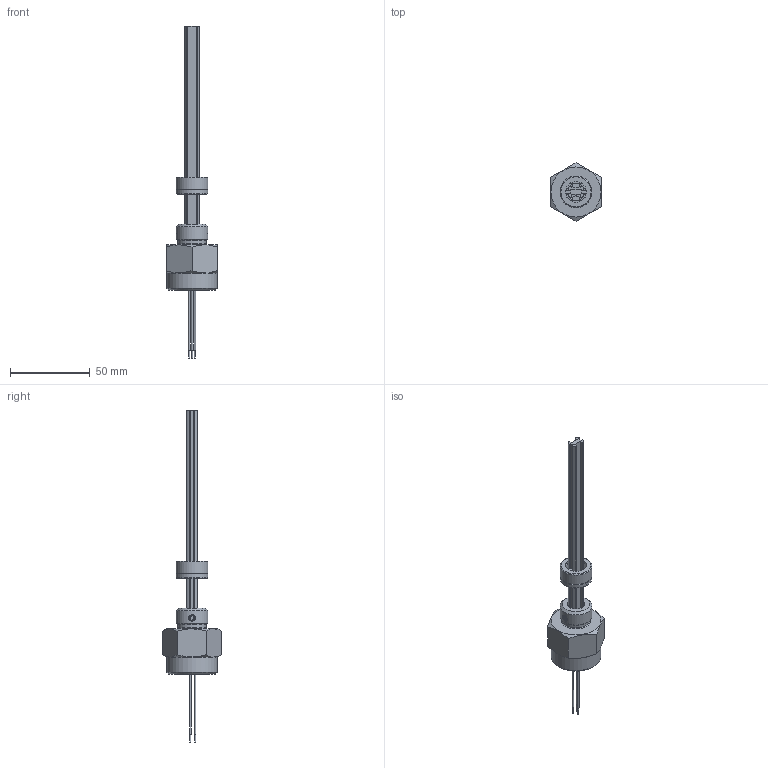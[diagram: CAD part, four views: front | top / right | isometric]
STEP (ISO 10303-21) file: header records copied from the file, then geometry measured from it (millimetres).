
FILE_DESCRIPTION (( 'STEP AP214' ), '1' );
FILE_NAME ('CH37_Cable_extern_flange-metric.STEP', '2019-04-24T13:12:57', ( '' ), ( '' ), 'SwSTEP 2.0', 'SolidWorks 2017', '' );
FILE_SCHEMA (( 'AUTOMOTIVE_DESIGN' ));
Length unit declared in the file: millimetre
Products named in the file (12): CUR080X; PKIT075X; Cable2; CUR081X; MIM308X_MIM308; TTAP078X; Cable3; Cable1; PUN025X; FLA081X; SUP085X; CH37_Cable_extern_flange-metric
Assembly tree (13 placements, depth 3):
  CH37_Cable_extern_flange-metric
    SUP085X
    MIM308X_MIM308  x2
    TTAP078X
    FLA081X
    PKIT075X
      CUR080X
      CUR081X
      PUN025X  x2
    Cable1
    Cable2
    Cable3
Bounding box: 32 x 36.95 x 208.7 mm (x, y, z)
Volume: 29934.5 mm3; surface area: 16686 mm2
Topology: 12 solids, 12 shells, 264 faces, 616 edges, 397 vertices
Faces by surface type: plane 123, cylinder 81, cone 55, torus 3, bspline 2
Full cylindrical faces by diameter (mm): 0.7 x6, 0.8 x6, 1 x3, 1.7 x2, 1.75 x4, 2.5 x4, 3.3 x4, 3.6 x2, 7.48 x1, 7.8 x1, 9.4 x1, 10 x2, 13.1 x1, 16.5 x1, 17.75 x1, 17.9 x1, 18.2 x1, 19.8 x1, 19.9 x1, 20 x1, 31.5 x1
Entity records: 7084 total; most frequent: CARTESIAN_POINT 1601, DIRECTION 1104, ORIENTED_EDGE 870, AXIS2_PLACEMENT_3D 442, EDGE_CURVE 435, EDGE_LOOP 352, VERTEX_POINT 329, FACE_OUTER_BOUND 280
